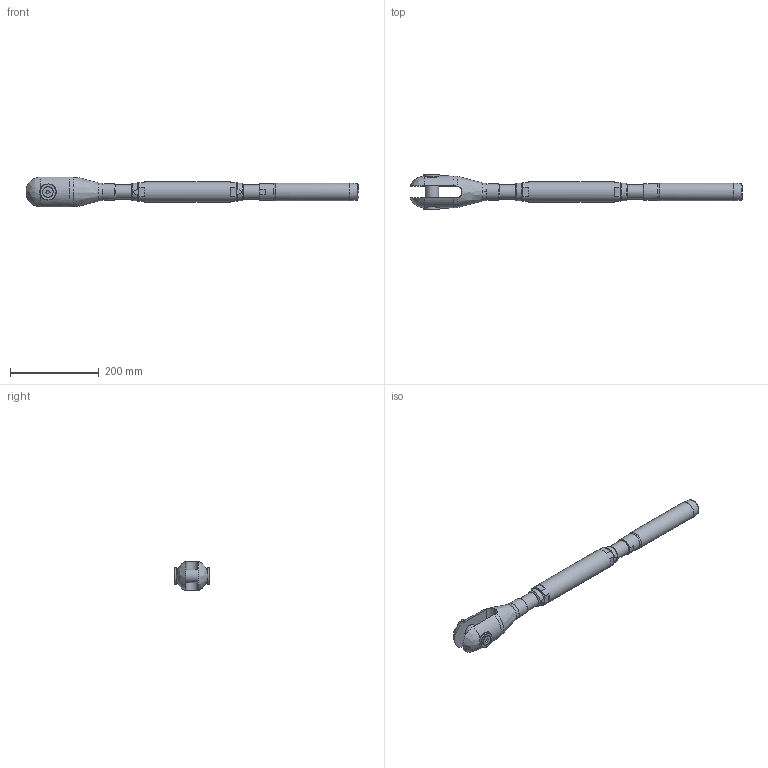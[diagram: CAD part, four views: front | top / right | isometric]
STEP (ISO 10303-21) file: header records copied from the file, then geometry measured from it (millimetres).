
FILE_DESCRIPTION(/* description */ (''),/* implementation_level */ '2;1');
FILE_NAME(/* name */ 'TBC 22_42CrMo4',/* time_stamp */ '2023-05-23T18:16:41+02:00',/* author */ (''),/* organization */ (''),/* preprocessor_version */ 'ST-DEVELOPER v16.5',/* originating_system */ 'Rhino 7.22',/* authorisation */ '');
FILE_SCHEMA (('CONFIG_CONTROL_DESIGN'));
Length unit declared in the file: millimetre
Products named in the file (1): Document
Bounding box: 746.35 x 80 x 66.75 mm (x, y, z)
Volume: 1059695 mm3; surface area: 190064.7 mm2
Topology: 10 solids, 10 shells, 140 faces, 383 edges, 265 vertices
Faces by surface type: plane 65, bspline 40, cylinder 35
Full cylindrical faces by diameter (mm): 10.106 x2, 12 x2, 12.5 x2, 23.12 x2, 29.211 x4, 30 x1, 32 x2, 33 x2, 36 x2, 38 x1, 38.1 x2, 40 x1, 46 x1
Entity records: 5891 total; most frequent: CARTESIAN_POINT 3462, ORIENTED_EDGE 758, EDGE_CURVE 379, VERTEX_POINT 265, EDGE_LOOP 160, B_SPLINE_CURVE_WITH_KNOTS 157, ADVANCED_FACE 140, FACE_OUTER_BOUND 140
